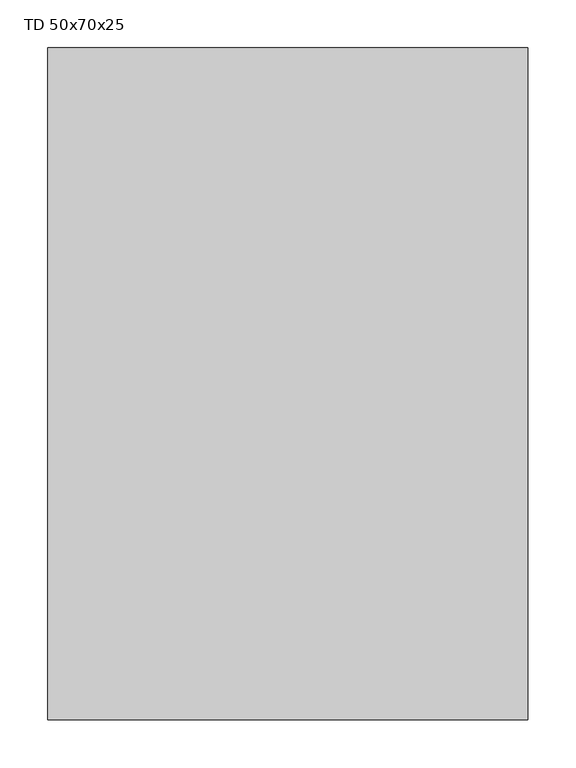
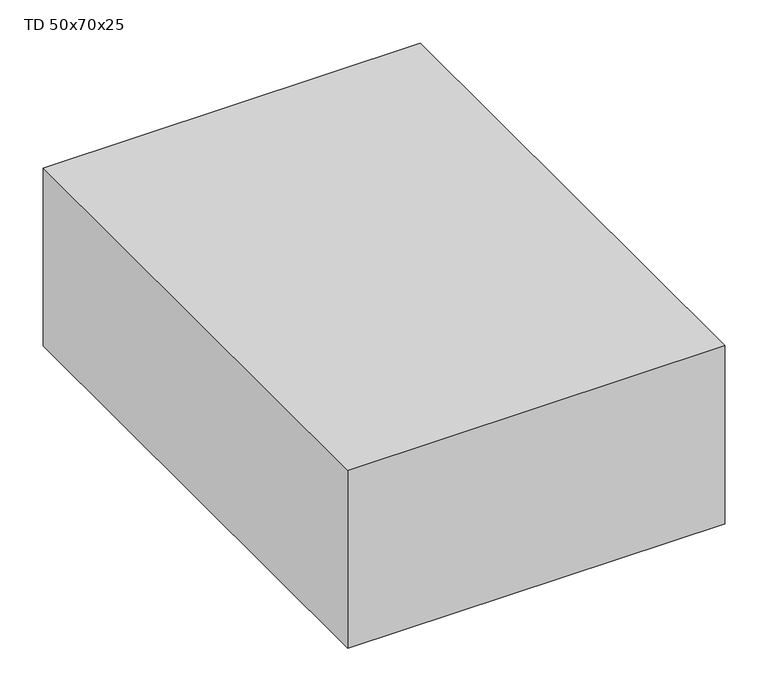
"""IFC4 building model written with IfcOpenShell, lengths in millimetres: proxy geometry, TABLERO ELECTRICO DE SUPERFICIE : TD 50x70x25."""

from ifc_helpers import new_model, si_unit, origin, origin_with_axes, place, context, project, spatial, polyline, outline, extrude, source, transform, mapped, element, save


def td_50x70x25_1e6689ec(model_context):
    return source(origin(), model_context, "Body", "SweptSolid", [
        extrude(outline(polyline([(250.0, 0.0), (250.0, -700.0), (-250.0, -700.0), (-250.0, 0.0), (250.0, 0.0)])), origin_with_axes(), (0.0, 0.0, 1.0), 250.0),
    ])


if __name__ == "__main__":
    model = new_model("IFC4")
    model_context = context("Model", 3, world=origin())
    ifc_project = project(units=[si_unit("LENGTHUNIT", "METRE", prefix="MILLI")], contexts=[model_context])
    site = spatial("IfcSite", under=ifc_project)
    building = spatial("IfcBuilding", under=site)
    placement = place(None, origin())
    td_50x70x25_shape = td_50x70x25_1e6689ec(model_context)
    element("IfcBuildingElementProxy", 1, Name="TABLERO ELECTRICO DE SUPERFICIE : TD 50x70x25", ObjectType="TABLERO ELECTRICO DE SUPERFICIE : TD 50x70x25", at=placement, inside=building, context=model_context, shape_type="MappedRepresentation", body=[
        mapped(td_50x70x25_shape, transform((0.0, 0.0, 0.0), x_axis=(1.0, 0.0, 0.0), y_axis=(0.0, 1.0, 0.0), z_axis=(0.0, 0.0, 1.0))),
    ])
    save(model, "model.ifc")
